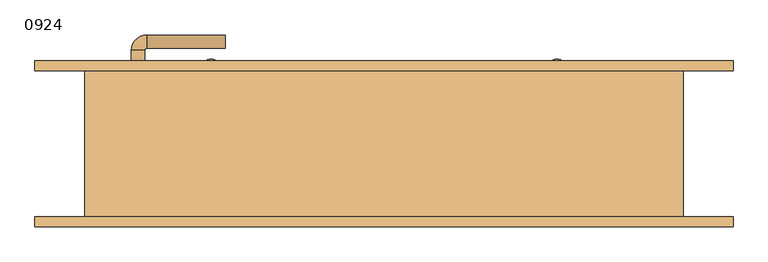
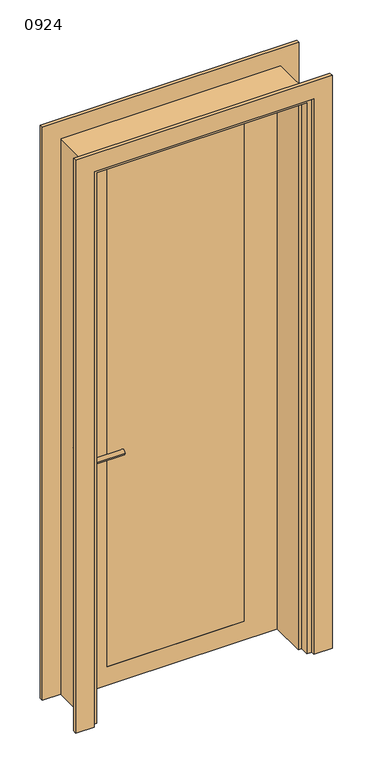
"""IFC4 building model written with IfcOpenShell, lengths in millimetres: door geometry, 单扇平开门-木门 : 0924."""

from ifc_helpers import new_model, si_unit, point, frame, frame_2d, origin, origin_with_axes, place, context, project, spatial, polyline, circle_curve, ellipse_curve, trimmed, segment, composite_curve, outline, extrude, faceted_brep, source, transform, mapped, element, save
from ifc_brep_helpers import plane_surface, cylinder_surface, revolved_surface, advanced_brep


def door_0924_8836e307(model_context):
    return source(origin(), model_context, "Body", "SolidModel", [
        extrude(outline(composite_curve([segment(trimmed(circle_curve(frame_2d((900.0, -370.0)), 25.0), [point((900.0, -345.0))], [point((900.0, -395.0))], False, "CARTESIAN"), True, "CONTINUOUS"), segment(trimmed(circle_curve(frame_2d((900.0, -370.0)), 25.0), [point((900.0, -395.0))], [point((900.0, -345.0))], False, "CARTESIAN"), True, "CONTINUOUS")], self_intersect=False)), frame((0.0, 65.0, 0.0), z_axis=(0.0, 1.0, 0.0), x_axis=(0.0, 0.0, 1.0)), (0.0, 0.0, 1.0), 10.0),
        extrude(outline(composite_curve([segment(trimmed(circle_curve(frame_2d((900.0, -370.0)), 25.0), [point((900.0, -345.0))], [point((900.0, -395.0))], False, "CARTESIAN"), True, "CONTINUOUS"), segment(trimmed(circle_curve(frame_2d((900.0, -370.0)), 25.0), [point((900.0, -395.0))], [point((900.0, -345.0))], False, "CARTESIAN"), True, "CONTINUOUS")], self_intersect=False)), frame((0.0, 110.0, 0.0), z_axis=(0.0, 1.0, 0.0), x_axis=(0.0, 0.0, 1.0)), (0.0, 0.0, 1.0), 10.0),
        advanced_brep(
        [(-380.0, 65.0, 1020.0), (-360.0, 65.0, 1020.0), (-360.0, 44.386645, 1020.0), (-380.0, 44.386645, 1020.0), (-238.419036, 21.419036, 1020.0), (-238.419036, 41.419036, 1020.0), (-357.0323911, 41.419036, 1020.0), (-357.0323911, 21.419036, 1020.0)],
        [
            (0, 1, circle_curve(frame((-370.0, 65.0, 1020.0), z_axis=(0.0, 1.0, 0.0), x_axis=(1.0, 0.0, 0.0)), 10.0)),
            (1, 0, circle_curve(frame((-370.0, 65.0, 1020.0), z_axis=(0.0, 1.0, 0.0), x_axis=(1.0, 0.0, 0.0)), 10.0)),
            (1, 2),
            (2, 3, circle_curve(frame((-370.0, 44.386645, 1020.0), z_axis=(0.0, 1.0, 0.0), x_axis=(1.0, 0.0, 0.0)), 10.0)),
            (3, 0),
            (3, 2, circle_curve(frame((-370.0, 44.386645, 1020.0), z_axis=(0.0, 1.0, 0.0), x_axis=(1.0, 0.0, 0.0)), 10.0)),
            (4, 5, circle_curve(frame((-238.419036, 31.419036, 1020.0), z_axis=(1.0, 0.0, 0.0), x_axis=(0.0, 1.0, 0.0)), 10.0)),
            (5, 4, circle_curve(frame((-238.419036, 31.419036, 1020.0), z_axis=(1.0, 0.0, 0.0), x_axis=(0.0, 1.0, 0.0)), 10.0)),
            (6, 2, circle_curve(frame((-357.0323911, 44.386645, 1020.0), z_axis=(0.0, 0.0, -1.0), x_axis=(-1.0, 0.0, 0.0)), 2.9676089)),
            (3, 7, circle_curve(frame((-357.0323911, 44.386645, 1020.0), z_axis=(0.0, 0.0, 1.0), x_axis=(-1.0, 0.0, 0.0)), 22.9676089)),
            (7, 6, circle_curve(frame((-357.0323911, 31.419036, 1020.0), z_axis=(-1.0, 0.0, 0.0), x_axis=(0.0, 1.0, 0.0)), 10.0)),
            (6, 7, circle_curve(frame((-357.0323911, 31.419036, 1020.0), z_axis=(-1.0, 0.0, 0.0), x_axis=(0.0, 1.0, 0.0)), 10.0)),
            (7, 4),
            (5, 6),
        ],
        [
            plane_surface(frame((-370.0, 65.0, 900.0), z_axis=(0.0, 1.0, 0.0), x_axis=(0.0, 0.0, 1.0))),
            cylinder_surface(frame((-370.0, 65.0, 1020.0), z_axis=(0.0, 1.0, 0.0), x_axis=(1.0, 0.0, 0.0)), 10.0),
            plane_surface(frame((-238.419036, 31.419036, 900.0), z_axis=(1.0, 0.0, 0.0), x_axis=(0.0, 0.0, 1.0))),
            revolved_surface(trimmed(ellipse_curve(frame((-370.0, 44.386645, 1020.0), z_axis=(0.0, 1.0, 0.0), x_axis=(1.0, 0.0, 0.0)), 10.0, 10.0), [point((-380.0, 44.386645, 1020.0))], [point((-360.0, 44.386645, 1020.0))], True, "CARTESIAN"), (-357.0323911, 44.386645, 900.0), (0.0, 0.0, 1.0)),
            revolved_surface(trimmed(ellipse_curve(frame((-370.0, 44.386645, 1020.0), z_axis=(0.0, 1.0, 0.0), x_axis=(1.0, 0.0, 0.0)), 10.0, 10.0), [point((-360.0, 44.386645, 1020.0))], [point((-380.0, 44.386645, 1020.0))], True, "CARTESIAN"), (-357.0323911, 44.386645, 900.0), (0.0, 0.0, 1.0)),
            cylinder_surface(frame((-357.0323911, 31.419036, 1020.0), z_axis=(-1.0, 0.0, 0.0), x_axis=(0.0, 1.0, 0.0)), 10.0),
        ],
        [
            (0, [[1, 2]]),
            (1, [[-2, 3, 4, 5]]),
            (1, [[-1, -5, 6, -3]]),
            (2, [[7, 8]]),
            (3, [[9, -6, 10, 11]]),
            (4, [[-10, -4, -9, 12]]),
            (5, [[-11, 13, -8, 14]]),
            (5, [[-12, -14, -7, -13]]),
        ],
    ),
        extrude(outline(composite_curve([segment(trimmed(circle_curve(frame_2d((1020.0, -370.0)), 25.0), [point((1020.0, -345.0))], [point((1020.0, -395.0))], False, "CARTESIAN"), True, "CONTINUOUS"), segment(trimmed(circle_curve(frame_2d((1020.0, -370.0)), 25.0), [point((1020.0, -395.0))], [point((1020.0, -345.0))], False, "CARTESIAN"), True, "CONTINUOUS")], self_intersect=False)), frame((0.0, 65.0, 0.0), z_axis=(0.0, 1.0, 0.0), x_axis=(0.0, 0.0, 1.0)), (0.0, 0.0, 1.0), 10.0),
        advanced_brep(
        [(-360.0, 120.0, 1020.0), (-380.0, 120.0, 1020.0), (-360.0, 140.6133551, 1020.0), (-380.0, 140.6133551, 1020.0), (-238.419036, 143.580964, 1020.0), (-238.419036, 163.580964, 1020.0), (-357.0323911, 163.580964, 1020.0), (-357.0323911, 143.580964, 1020.0)],
        [
            (0, 1, circle_curve(frame((-370.0, 120.0, 1020.0), z_axis=(0.0, -1.0, 0.0), x_axis=(-1.0, 0.0, 0.0)), 10.0)),
            (1, 0, circle_curve(frame((-370.0, 120.0, 1020.0), z_axis=(0.0, -1.0, 0.0), x_axis=(-1.0, 0.0, 0.0)), 10.0)),
            (0, 2),
            (2, 3, circle_curve(frame((-370.0, 140.6133551, 1020.0), z_axis=(0.0, -1.0, 0.0), x_axis=(-1.0, 0.0, 0.0)), 10.0)),
            (3, 1),
            (3, 2, circle_curve(frame((-370.0, 140.6133551, 1020.0), z_axis=(0.0, -1.0, 0.0), x_axis=(-1.0, 0.0, 0.0)), 10.0)),
            (4, 5, circle_curve(frame((-238.419036, 153.580964, 1020.0), z_axis=(1.0, 0.0, 0.0), x_axis=(0.0, 1.0, 0.0)), 10.0)),
            (5, 4, circle_curve(frame((-238.419036, 153.580964, 1020.0), z_axis=(1.0, 0.0, 0.0), x_axis=(0.0, 1.0, 0.0)), 10.0)),
            (6, 3, circle_curve(frame((-357.0323911, 140.6133551, 1020.0), z_axis=(0.0, 0.0, 1.0), x_axis=(-1.0, 0.0, 0.0)), 22.9676089)),
            (2, 7, circle_curve(frame((-357.0323911, 140.6133551, 1020.0), z_axis=(0.0, 0.0, -1.0), x_axis=(-1.0, 0.0, 0.0)), 2.9676089)),
            (7, 6, circle_curve(frame((-357.0323911, 153.580964, 1020.0), z_axis=(-1.0, 0.0, 0.0), x_axis=(0.0, 1.0, 0.0)), 10.0)),
            (6, 7, circle_curve(frame((-357.0323911, 153.580964, 1020.0), z_axis=(-1.0, 0.0, 0.0), x_axis=(0.0, 1.0, 0.0)), 10.0)),
            (7, 4),
            (5, 6),
        ],
        [
            plane_surface(frame((-370.0, 120.0, 900.0), z_axis=(0.0, -1.0, 0.0), x_axis=(0.0, 0.0, 1.0))),
            cylinder_surface(frame((-370.0, 120.0, 1020.0), z_axis=(0.0, -1.0, 0.0), x_axis=(-1.0, 0.0, 0.0)), 10.0),
            plane_surface(frame((-238.419036, 153.580964, 900.0), z_axis=(1.0, 0.0, 0.0), x_axis=(0.0, 0.0, 1.0))),
            revolved_surface(trimmed(ellipse_curve(frame((-370.0, 140.6133551, 1020.0), z_axis=(0.0, -1.0, 0.0), x_axis=(-1.0, 0.0, 0.0)), 10.0, 10.0), [point((-360.0, 140.6133551, 1020.0))], [point((-380.0, 140.6133551, 1020.0))], True, "CARTESIAN"), (-357.0323911, 140.6133551, 900.0), (0.0, 0.0, -1.0)),
            revolved_surface(trimmed(ellipse_curve(frame((-370.0, 140.6133551, 1020.0), z_axis=(0.0, -1.0, 0.0), x_axis=(-1.0, 0.0, 0.0)), 10.0, 10.0), [point((-380.0, 140.6133551, 1020.0))], [point((-360.0, 140.6133551, 1020.0))], True, "CARTESIAN"), (-357.0323911, 140.6133551, 900.0), (0.0, 0.0, -1.0)),
            cylinder_surface(frame((-357.0323911, 153.580964, 1020.0), z_axis=(-1.0, 0.0, 0.0), x_axis=(0.0, 1.0, 0.0)), 10.0),
        ],
        [
            (0, [[1, 2]]),
            (1, [[-1, 3, 4, 5]]),
            (1, [[-2, -5, 6, -3]]),
            (2, [[7, 8]]),
            (3, [[9, -4, 10, 11]]),
            (4, [[-10, -6, -9, 12]]),
            (5, [[-11, 13, -8, 14]]),
            (5, [[-12, -14, -7, -13]]),
        ],
    ),
        extrude(outline(composite_curve([segment(trimmed(circle_curve(frame_2d((1020.0, -370.0)), 25.0), [point((1020.0, -345.0))], [point((1020.0, -395.0))], False, "CARTESIAN"), True, "CONTINUOUS"), segment(trimmed(circle_curve(frame_2d((1020.0, -370.0)), 25.0), [point((1020.0, -395.0))], [point((1020.0, -345.0))], False, "CARTESIAN"), True, "CONTINUOUS")], self_intersect=False)), frame((0.0, 110.0, 0.0), z_axis=(0.0, 1.0, 0.0), x_axis=(0.0, 0.0, 1.0)), (0.0, 0.0, 1.0), 10.0),
        extrude(outline(polyline([(2400.0, -450.0), (2400.0, 450.0), (0.0, 450.0), (0.0, 525.0), (2475.0, 525.0), (2475.0, -525.0), (0.0, -525.0), (0.0, -450.0), (2400.0, -450.0)])), frame((0.0, 110.0, 0.0), z_axis=(0.0, 1.0, 0.0), x_axis=(0.0, 0.0, 1.0)), (0.0, 0.0, 1.0), 15.0),
        extrude(outline(polyline([(2475.0, -525.0), (0.0, -525.0), (0.0, -450.0), (2400.0, -450.0), (2400.0, 450.0), (0.0, 450.0), (0.0, 525.0), (2475.0, 525.0), (2475.0, -525.0)])), frame((0.0, -125.0, 0.0), z_axis=(0.0, 1.0, 0.0), x_axis=(0.0, 0.0, 1.0)), (0.0, 0.0, 1.0), 15.0),
        extrude(outline(polyline([(2380.0, 430.0), (2380.0, -430.0), (0.0, -430.0), (0.0, 430.0), (2380.0, 430.0)]), holes=[polyline([(2360.0, 280.0), (80.0, 280.0), (80.0, -280.0), (2360.0, -280.0), (2360.0, 280.0)])]), frame((0.0, 75.0, 0.0), z_axis=(0.0, 1.0, 0.0), x_axis=(0.0, 0.0, 1.0)), (0.0, 0.0, 1.0), 35.0),
        extrude(outline(composite_curve([segment(polyline([(-280.0, 110.0), (-280.0, 111.0)]), True, "CONTINUOUS"), segment(trimmed(circle_curve(frame_2d((-273.0, 111.0)), 7.0), [point((-280.0, 111.0))], [point((-273.0, 118.0))], False, "CARTESIAN"), True, "CONTINUOUS"), segment(trimmed(circle_curve(frame_2d((-260.0, 113.3201295)), 13.8166996), [point((-273.0, 118.0))], [point((-247.0, 118.0))], False, "CARTESIAN"), True, "CONTINUOUS"), segment(trimmed(circle_curve(frame_2d((-247.0, 111.0)), 7.0), [point((-247.0, 118.0))], [point((-240.0, 111.0))], False, "CARTESIAN"), True, "CONTINUOUS"), segment(polyline([(-240.0, 111.0), (-240.0, 110.0), (-280.0, 110.0)]), True, "CONTINUOUS")], self_intersect=False)), origin_with_axes(), (0.0, 0.0, 1.0), 2380.0),
        extrude(outline(composite_curve([segment(polyline([(280.0, 110.0), (240.0, 110.0), (240.0, 111.0)]), True, "CONTINUOUS"), segment(trimmed(circle_curve(frame_2d((247.0, 111.0)), 7.0), [point((240.0, 111.0))], [point((247.0, 118.0))], False, "CARTESIAN"), True, "CONTINUOUS"), segment(trimmed(circle_curve(frame_2d((260.0, 113.3201295)), 13.8166996), [point((247.0, 118.0))], [point((273.0, 118.0))], False, "CARTESIAN"), True, "CONTINUOUS"), segment(trimmed(circle_curve(frame_2d((273.0, 111.0)), 7.0), [point((273.0, 118.0))], [point((280.0, 111.0))], False, "CARTESIAN"), True, "CONTINUOUS"), segment(polyline([(280.0, 111.0), (280.0, 110.0)]), True, "CONTINUOUS")], self_intersect=False)), origin_with_axes(), (0.0, 0.0, 1.0), 2380.0),
        extrude(outline(polyline([(280.0, 110.0), (280.0, 75.0), (-280.0, 75.0), (-280.0, 110.0), (280.0, 110.0)])), frame((0.0, 0.0, 80.0), z_axis=(0.0, 0.0, 1.0), x_axis=(1.0, 0.0, 0.0)), (0.0, 0.0, 1.0), 2280.0),
        faceted_brep([(450.0, 110.0, 0.0), (450.0, -110.0, 0.0), (430.0, -110.0, 0.0), (430.0, -75.0, 0.0), (415.0, -75.0, 0.0), (415.0, 75.0, 0.0), (430.0, 75.0, 0.0), (430.0, 110.0, 0.0), (450.0, 110.0, 2400.0), (450.0, -110.0, 2400.0), (-450.0, -110.0, 2400.0), (-450.0, -110.0, 0.0), (-430.0, -110.0, 0.0), (-430.0, -110.0, 2380.0), (430.0, -110.0, 2380.0), (430.0, -75.0, 2380.0), (-430.0, -75.0, 2380.0), (-430.0, -75.0, 0.0), (-415.0, -75.0, 0.0), (-415.0, -75.0, 2365.0), (415.0, -75.0, 2365.0), (415.0, 75.0, 2365.0), (-415.0, 75.0, 2365.0), (-415.0, 75.0, 0.0), (-430.0, 75.0, 0.0), (-430.0, 75.0, 2380.0), (430.0, 75.0, 2380.0), (430.0, 110.0, 2380.0), (-430.0, 110.0, 2380.0), (-430.0, 110.0, 0.0), (-450.0, 110.0, 0.0), (-450.0, 110.0, 2400.0)], [[[0, 1, 2, 3, 4, 5, 6, 7]], [[1, 0, 8, 9]], [[2, 1, 9, 10, 11, 12, 13, 14]], [[3, 2, 14, 15]], [[4, 3, 15, 16, 17, 18, 19, 20]], [[5, 4, 20, 21]], [[6, 5, 21, 22, 23, 24, 25, 26]], [[7, 6, 26, 27]], [[0, 7, 27, 28, 29, 30, 31, 8]], [[9, 8, 31, 10]], [[15, 14, 13, 16]], [[21, 20, 19, 22]], [[27, 26, 25, 28]], [[30, 29, 24, 23, 18, 17, 12, 11]], [[10, 31, 30, 11]], [[16, 13, 12, 17]], [[22, 19, 18, 23]], [[28, 25, 24, 29]]]),
    ])


if __name__ == "__main__":
    model = new_model("IFC4")
    model_context = context("Model", 3, world=origin())
    ifc_project = project(units=[si_unit("LENGTHUNIT", "METRE", prefix="MILLI")], contexts=[model_context])
    site = spatial("IfcSite", under=ifc_project)
    building = spatial("IfcBuilding", under=site)
    placement = place(None, origin())
    door_0924_shape = door_0924_8836e307(model_context)
    element("IfcDoor", 1, ObjectType="单扇平开门-木门 : 0924", at=placement, inside=building, context=model_context, shape_type="MappedRepresentation", body=[
        mapped(door_0924_shape, transform((0.0, 0.0, 0.0), x_axis=(1.0, 0.0, 0.0), y_axis=(0.0, 1.0, 0.0), z_axis=(0.0, 0.0, 1.0))),
    ])
    save(model, "model.ifc")
